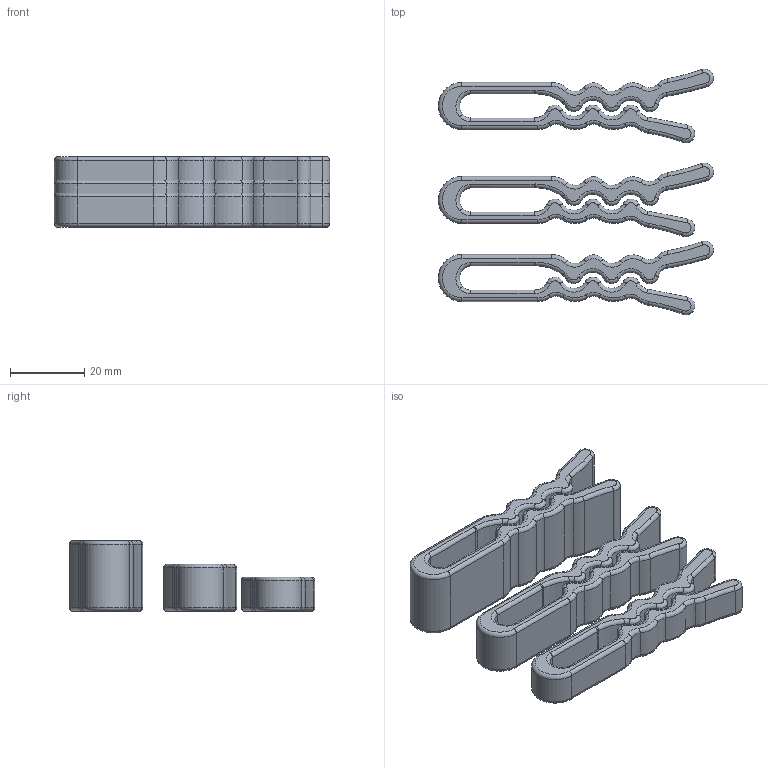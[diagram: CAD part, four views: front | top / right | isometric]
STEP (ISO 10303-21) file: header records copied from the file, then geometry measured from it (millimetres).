
FILE_DESCRIPTION(/* description */ (''),/* implementation_level */ '2;1');
FILE_NAME(/* name */ 'E:/software/3d/3d files/chip clip/cc ext/chip clip ext v5.step',/* time_stamp */ '2019-10-19T03:14:30-07:00',/* author */ (''),/* organization */ (''),/* preprocessor_version */ 'ST-DEVELOPER v18',/* originating_system */ 'Autodesk Translation Framework v8.6.0.1094',/* authorisation */ '');
FILE_SCHEMA (('AUTOMOTIVE_DESIGN { 1 0 10303 214 3 1 1 }'));
Length unit declared in the file: inch
Products named in the file (1): chip clip ext
Bounding box: 74.23 x 66.24 x 19.05 mm (x, y, z)
Volume: 24529.8 mm3; surface area: 15688 mm2
Topology: 3 solids, 3 shells, 402 faces, 948 edges, 552 vertices
Faces by surface type: torus 234, cylinder 139, plane 21, bspline 8
Entity records: 12300 total; most frequent: CARTESIAN_POINT 2635, DIRECTION 2370, ORIENTED_EDGE 1896, AXIS2_PLACEMENT_3D 1079, EDGE_CURVE 948, CIRCLE 684, VERTEX_POINT 552, FACE_OUTER_BOUND 402
